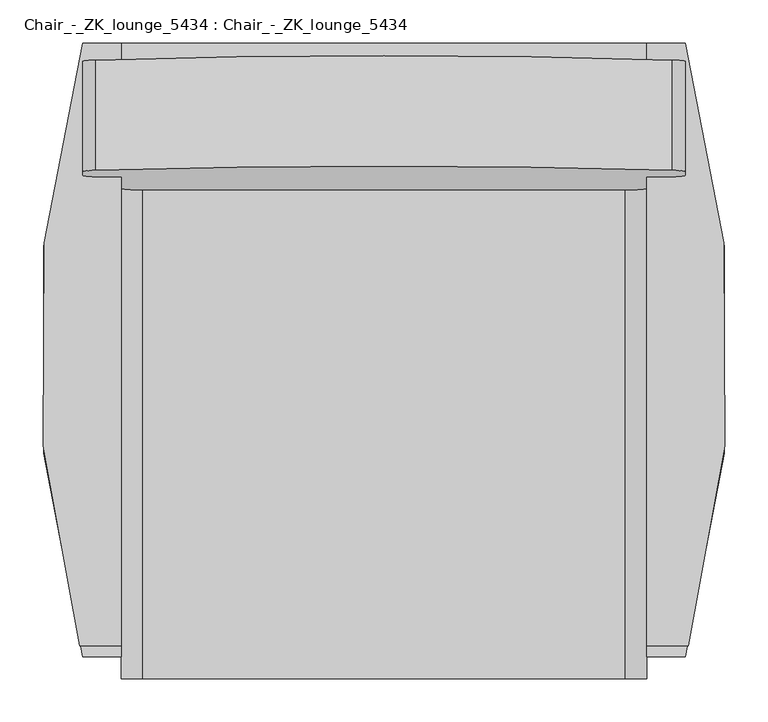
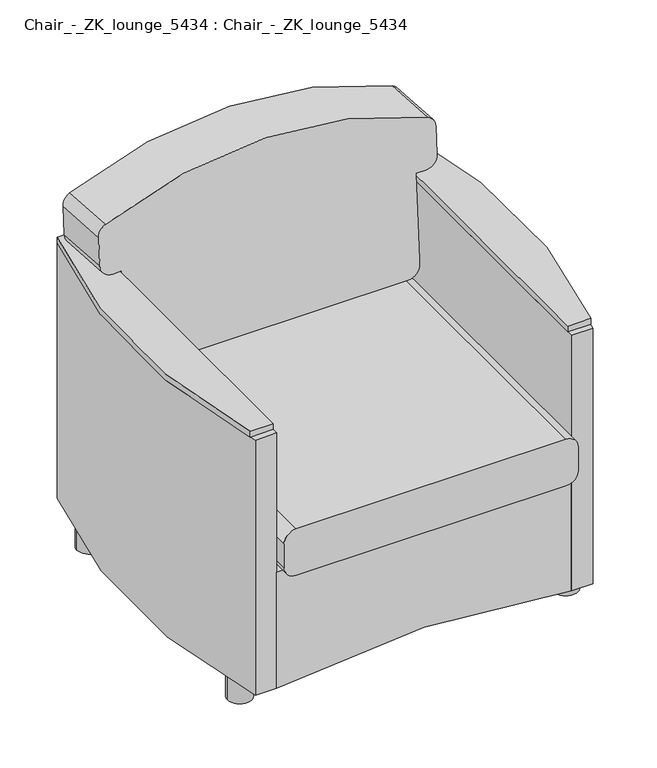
"""IFC4 building model written with IfcOpenShell, lengths in millimetres: furniture geometry, Chair_-_ZK_lounge_5434 : Chair_-_ZK_lounge_5434."""

from ifc_helpers import new_model, si_unit, point, frame, frame_2d, origin, origin_with_axes, place, context, project, spatial, polyline, circle_curve, trimmed, segment, composite_curve, outline, extrude, source, transform, mapped, element, save


def chair_zk_lounge_5434_chair_zk_lounge_5434_35d170e8(model_context):
    return source(origin(), model_context, "Body", "SweptSolid", [
        extrude(outline(composite_curve([segment(polyline([(215.9000001, 0.0), (215.9000001, 19.05)]), True, "CONTINUOUS"), segment(trimmed(circle_curve(frame_2d((241.3, 19.05)), 25.4), [point((215.9000001, 19.05))], [point((241.3, 44.45))], False, "CARTESIAN"), True, "CONTINUOUS"), segment(polyline([(241.3, 44.45), (301.0268457, 44.45)]), True, "CONTINUOUS"), segment(trimmed(circle_curve(frame_2d((301.0268457, 19.05)), 25.4), [point((301.0268457, 44.45))], [point((324.3214506, 29.1752842))], False, "CARTESIAN"), True, "CONTINUOUS"), segment(trimmed(circle_curve(frame_2d((-444.0344981, -304.8)), 837.8009038), [point((324.3214506, 29.1752842))], [point((324.3214506, -638.7752842))], False, "CARTESIAN"), True, "CONTINUOUS"), segment(trimmed(circle_curve(frame_2d((301.0268457, -628.65)), 25.4), [point((324.3214506, -638.7752842))], [point((301.0268457, -654.05))], False, "CARTESIAN"), True, "CONTINUOUS"), segment(polyline([(301.0268457, -654.05), (241.3, -654.05)]), True, "CONTINUOUS"), segment(trimmed(circle_curve(frame_2d((241.3, -628.65)), 25.4), [point((241.3, -654.05))], [point((215.9000001, -628.65))], False, "CARTESIAN"), True, "CONTINUOUS"), segment(polyline([(215.9000001, -628.65), (215.9000001, -609.6), (25.4, -609.6)]), True, "CONTINUOUS"), segment(trimmed(circle_curve(frame_2d((25.4, -584.2)), 25.4), [point((25.4, -609.6))], [point((0.0, -584.2))], False, "CARTESIAN"), True, "CONTINUOUS"), segment(polyline([(0.0, -584.2), (0.0, -25.4)]), True, "CONTINUOUS"), segment(trimmed(circle_curve(frame_2d((25.4, -25.4)), 25.4), [point((0.0, -25.4))], [point((25.4, 0.0))], False, "CARTESIAN"), True, "CONTINUOUS"), segment(polyline([(25.4, 0.0), (215.9000001, 0.0)]), True, "CONTINUOUS")], self_intersect=False)), frame((-304.8, -67.6193342, 402.410714), z_axis=(0.0, -0.9975640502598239, 0.06975647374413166), x_axis=(0.0, 0.06975647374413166, 0.9975640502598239)), (0.0, 0.0, 1.0), 128.0779624),
        extrude(outline(composite_curve([segment(trimmed(circle_curve(frame_2d((337.5337685, -660.0897211)), 25.4), [point((362.9337685, -660.0897211))], [point((312.1337685, -660.0897211))], False, "CARTESIAN"), True, "CONTINUOUS"), segment(trimmed(circle_curve(frame_2d((337.5337685, -660.0897211)), 25.4), [point((312.1337685, -660.0897211))], [point((362.9337685, -660.0897211))], False, "CARTESIAN"), True, "CONTINUOUS")], self_intersect=False)), origin_with_axes(), (0.0, 0.0, 1.0), 50.8),
        extrude(outline(composite_curve([segment(trimmed(circle_curve(frame_2d((337.5337685, -120.3397211)), 25.4), [point((362.9337685, -120.3397211))], [point((312.1337685, -120.3397211))], False, "CARTESIAN"), True, "CONTINUOUS"), segment(trimmed(circle_curve(frame_2d((337.5337685, -120.3397211)), 25.4), [point((312.1337685, -120.3397211))], [point((362.9337685, -120.3397211))], False, "CARTESIAN"), True, "CONTINUOUS")], self_intersect=False)), origin_with_axes(), (0.0, 0.0, 1.0), 50.8),
        extrude(outline(composite_curve([segment(trimmed(circle_curve(frame_2d((-337.5337685, -660.0897211)), 25.4), [point((-362.9337685, -660.0897211))], [point((-312.1337685, -660.0897211))], False, "CARTESIAN"), True, "CONTINUOUS"), segment(trimmed(circle_curve(frame_2d((-337.5337685, -660.0897211)), 25.4), [point((-312.1337685, -660.0897211))], [point((-362.9337685, -660.0897211))], False, "CARTESIAN"), True, "CONTINUOUS")], self_intersect=False)), origin_with_axes(), (0.0, 0.0, 1.0), 50.8),
        extrude(outline(composite_curve([segment(trimmed(circle_curve(frame_2d((-337.5337685, -120.3397211)), 25.4), [point((-362.9337685, -120.3397211))], [point((-312.1337685, -120.3397211))], False, "CARTESIAN"), True, "CONTINUOUS"), segment(trimmed(circle_curve(frame_2d((-337.5337685, -120.3397211)), 25.4), [point((-312.1337685, -120.3397211))], [point((-362.9337685, -120.3397211))], False, "CARTESIAN"), True, "CONTINUOUS")], self_intersect=False)), origin_with_axes(), (0.0, 0.0, 1.0), 50.8),
        extrude(outline(composite_curve([segment(polyline([(381.0, -304.8), (330.2, -304.8)]), True, "CONTINUOUS"), segment(trimmed(circle_curve(frame_2d((330.2, -279.4)), 25.4), [point((330.2, -304.8))], [point((304.8, -279.4))], False, "CARTESIAN"), True, "CONTINUOUS"), segment(polyline([(304.8, -279.4), (304.8, 279.4)]), True, "CONTINUOUS"), segment(trimmed(circle_curve(frame_2d((330.2, 279.4)), 25.4), [point((304.8, 279.4))], [point((330.2, 304.8))], False, "CARTESIAN"), True, "CONTINUOUS"), segment(polyline([(330.2, 304.8), (381.0, 304.8)]), True, "CONTINUOUS"), segment(trimmed(circle_curve(frame_2d((381.0, 279.4)), 25.4), [point((381.0, 304.8))], [point((406.4, 279.4))], False, "CARTESIAN"), True, "CONTINUOUS"), segment(polyline([(406.4, 279.4), (406.4, -279.4)]), True, "CONTINUOUS"), segment(trimmed(circle_curve(frame_2d((381.0, -279.4)), 25.4), [point((406.4, -279.4))], [point((381.0, -304.8))], False, "CARTESIAN"), True, "CONTINUOUS")], self_intersect=False)), frame((0.0, -762.0, 0.0), z_axis=(0.0, 1.0, 0.0), x_axis=(0.0, 0.0, 1.0)), (0.0, 0.0, 1.0), 701.2793553),
        extrude(outline(composite_curve([segment(trimmed(circle_curve(frame_2d((869.9472201, -381.0)), 1269.9973313), [point((-352.8826174, -723.9))], [point((-349.25, -25.4))], False, "CARTESIAN"), True, "CONTINUOUS"), segment(polyline([(-349.25, -25.4), (-304.8, -25.4), (-304.8, -723.9), (-352.8826174, -723.9)]), True, "CONTINUOUS")], self_intersect=False)), frame((0.0, 0.0, 609.6), z_axis=(0.0, 0.0, 1.0), x_axis=(1.0, 0.0, 0.0)), (0.0, 0.0, 1.0), 12.7),
        extrude(outline(composite_curve([segment(polyline([(352.8826174, -723.9), (304.8, -723.9), (304.8, -25.4), (349.25, -25.4)]), True, "CONTINUOUS"), segment(trimmed(circle_curve(frame_2d((-869.9472201, -381.0)), 1269.9973313), [point((349.25, -25.4))], [point((352.8826174, -723.9))], False, "CARTESIAN"), True, "CONTINUOUS")], self_intersect=False)), frame((0.0, 0.0, 609.6), z_axis=(0.0, 0.0, 1.0), x_axis=(1.0, 0.0, 0.0)), (0.0, 0.0, 1.0), 12.7),
        extrude(outline(composite_curve([segment(trimmed(circle_curve(frame_2d((-1679.9088653, 0.0)), 1757.3435112), [point((50.8, -304.8))], [point((50.8, 304.8))], True, "CARTESIAN"), True, "CONTINUOUS"), segment(polyline([(50.8, 304.8), (304.8, 304.8), (304.8, -304.8), (50.8, -304.8)]), True, "CONTINUOUS")], self_intersect=False)), frame((0.0, -736.6, 0.0), z_axis=(0.0, 1.0, 0.0), x_axis=(0.0, 0.0, 1.0)), (0.0, 0.0, 1.0), 675.8793553),
        extrude(outline(composite_curve([segment(trimmed(circle_curve(frame_2d((-1679.9088653, 0.0)), 1757.3435112), [point((50.8, -304.8))], [point((50.8, 304.8))], True, "CARTESIAN"), True, "CONTINUOUS"), segment(polyline([(50.8, 304.8), (609.6, 304.8)]), True, "CONTINUOUS"), segment(trimmed(circle_curve(frame_2d((-1121.1088653, 0.0)), 1757.3435112), [point((609.6, 304.8))], [point((609.6, -304.8))], False, "CARTESIAN"), True, "CONTINUOUS"), segment(polyline([(609.6, -304.8), (50.8, -304.8)]), True, "CONTINUOUS")], self_intersect=False)), frame((0.0, -60.7206447, 0.0), z_axis=(0.0, 1.0, 0.0), x_axis=(0.0, 0.0, 1.0)), (0.0, 0.0, 1.0), 35.3206447),
        extrude(outline(composite_curve([segment(polyline([(-304.8, -736.6), (-349.25, -736.6)]), True, "CONTINUOUS"), segment(trimmed(circle_curve(frame_2d((869.9472201, -381.0)), 1269.9973313), [point((-349.25, -736.6))], [point((-349.25, -25.4))], False, "CARTESIAN"), True, "CONTINUOUS"), segment(polyline([(-349.25, -25.4), (-304.8, -25.4), (-304.8, -736.6)]), True, "CONTINUOUS")], self_intersect=False)), frame((0.0, 0.0, 50.8), z_axis=(0.0, 0.0, 1.0), x_axis=(1.0, 0.0, 0.0)), (0.0, 0.0, 1.0), 558.8),
        extrude(outline(composite_curve([segment(polyline([(304.8, -736.6), (304.8, -25.4), (349.25, -25.4)]), True, "CONTINUOUS"), segment(trimmed(circle_curve(frame_2d((-869.9472201, -381.0)), 1269.9973313), [point((349.25, -25.4))], [point((349.25, -736.6))], False, "CARTESIAN"), True, "CONTINUOUS"), segment(polyline([(349.25, -736.6), (304.8, -736.6)]), True, "CONTINUOUS")], self_intersect=False)), frame((0.0, 0.0, 50.8), z_axis=(0.0, 0.0, 1.0), x_axis=(1.0, 0.0, 0.0)), (0.0, 0.0, 1.0), 558.8),
    ])


if __name__ == "__main__":
    model = new_model("IFC4")
    model_context = context("Model", 3, world=origin())
    ifc_project = project(units=[si_unit("LENGTHUNIT", "METRE", prefix="MILLI")], contexts=[model_context])
    site = spatial("IfcSite", under=ifc_project)
    building = spatial("IfcBuilding", under=site)
    placement = place(None, origin())
    chair_zk_lounge_5434_chair_zk_lounge_5434_shape = chair_zk_lounge_5434_chair_zk_lounge_5434_35d170e8(model_context)
    element("IfcFurniture", 1, ObjectType="Chair_-_ZK_lounge_5434 : Chair_-_ZK_lounge_5434", at=placement, inside=building, context=model_context, shape_type="MappedRepresentation", body=[
        mapped(chair_zk_lounge_5434_chair_zk_lounge_5434_shape, transform((0.0, 0.0, 0.0), x_axis=(1.0, 0.0, 0.0), y_axis=(0.0, 1.0, 0.0), z_axis=(0.0, 0.0, 1.0))),
    ])
    save(model, "model.ifc")
